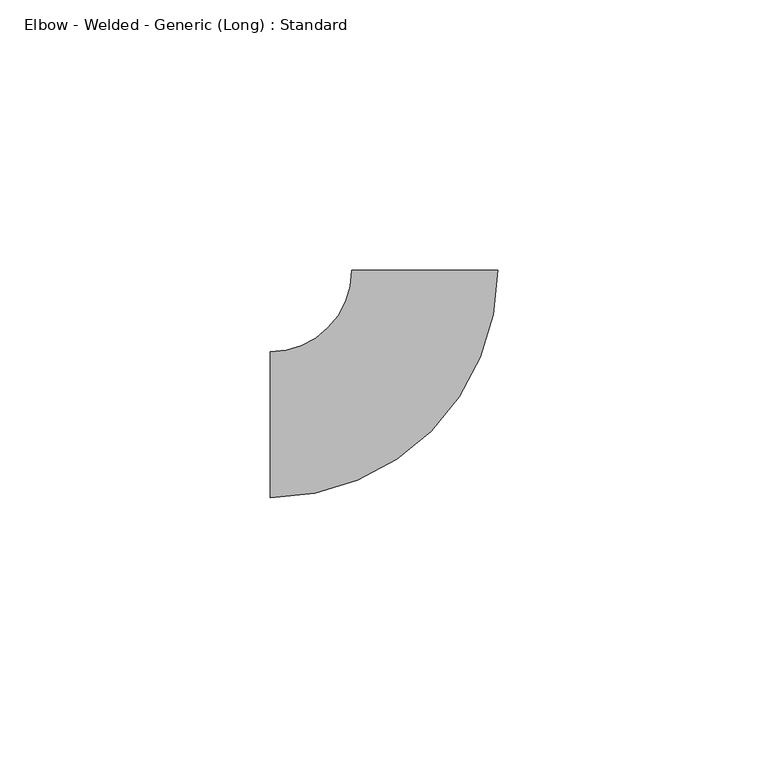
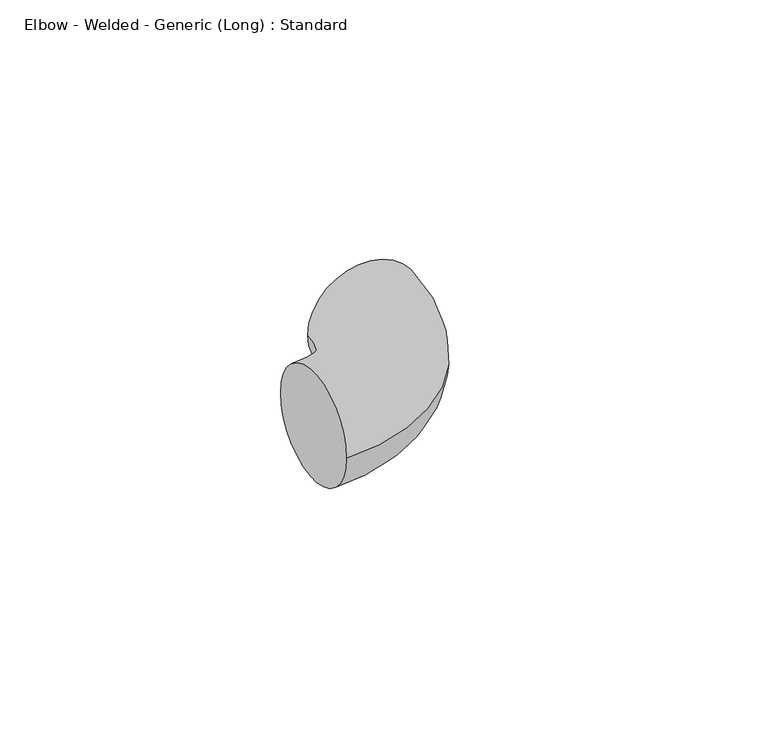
"""IFC4 building model written with IfcOpenShell, lengths in millimetres: pipe fitting geometry, Elbow - Welded - Generic (Long) : Standard."""

from ifc_helpers import new_model, si_unit, point, frame, origin, place, context, project, spatial, circle_curve, ellipse_curve, trimmed, source, transform, mapped, element, save
from ifc_brep_helpers import plane_surface, revolved_surface, advanced_brep


def elbow_welded_generic_long_standard_6d6d4de9(model_context):
    return source(origin(), model_context, "Body", "AdvancedBrep", [
        advanced_brep(
        [(-28.575, -13.49375, 0.0), (-28.575, 13.49375, 0.0), (13.523492, 28.5609362, 0.0), (-13.4639933, 28.5890328, 0.0)],
        [
            (0, 1, circle_curve(frame((-28.575, 0.0, 0.0), z_axis=(-1.0, 0.0, 0.0), x_axis=(0.0, 1.0, 0.0)), 13.49375)),
            (1, 0, circle_curve(frame((-28.575, 0.0, 0.0), z_axis=(-1.0, 0.0, 0.0), x_axis=(0.0, 1.0, 0.0)), 13.49375)),
            (2, 3, circle_curve(frame((0.0297494, 28.5749845, 0.0), z_axis=(0.001041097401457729, 0.9999994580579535, 0.0), x_axis=(-0.9999994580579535, 0.001041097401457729, 0.0)), 13.49375)),
            (3, 2, circle_curve(frame((0.0297494, 28.5749845, 0.0), z_axis=(0.001041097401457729, 0.9999994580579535, 0.0), x_axis=(-0.9999994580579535, 0.001041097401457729, 0.0)), 13.49375)),
            (3, 1, circle_curve(frame((-28.575, 28.6047649, 0.0), z_axis=(0.0, 0.0, -1.0), x_axis=(0.0, -1.0, 0.0)), 15.1110149)),
            (0, 2, circle_curve(frame((-28.575, 28.6047649, 0.0), z_axis=(0.0, 0.0, 1.0), x_axis=(0.0, -1.0, 0.0)), 42.0985149)),
        ],
        [
            plane_surface(frame((-28.575, 0.0, 0.0), z_axis=(-1.0, 0.0, 0.0), x_axis=(0.0, 0.0, 1.0))),
            plane_surface(frame((0.0297494, 28.5749845, 0.0), z_axis=(0.0010410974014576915, 0.9999994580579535, 0.0), x_axis=(0.0, 0.0, 1.0))),
            revolved_surface(trimmed(ellipse_curve(frame((-28.575, 0.0, 0.0), z_axis=(-1.0, 0.0, 0.0), x_axis=(0.0, 1.0, 0.0)), 13.49375, 13.49375), [point((-28.575, -13.49375, 0.0))], [point((-28.575, 13.49375, 0.0))], True, "CARTESIAN"), (-28.575, 28.6047649, 0.0), (0.0, 0.0, 1.0)),
            revolved_surface(trimmed(ellipse_curve(frame((-28.575, 0.0, 0.0), z_axis=(-1.0, 0.0, 0.0), x_axis=(0.0, 1.0, 0.0)), 13.49375, 13.49375), [point((-28.575, 13.49375, 0.0))], [point((-28.575, -13.49375, 0.0))], True, "CARTESIAN"), (-28.575, 28.6047649, 0.0), (0.0, 0.0, 1.0)),
        ],
        [
            (0, [[1, 2]]),
            (1, [[3, 4]]),
            (2, [[5, -1, 6, -4]]),
            (3, [[-6, -2, -5, -3]]),
        ],
    ),
    ])


if __name__ == "__main__":
    model = new_model("IFC4")
    model_context = context("Model", 3, world=origin())
    ifc_project = project(units=[si_unit("LENGTHUNIT", "METRE", prefix="MILLI")], contexts=[model_context])
    site = spatial("IfcSite", under=ifc_project)
    building = spatial("IfcBuilding", under=site)
    placement = place(None, origin())
    elbow_welded_generic_long_standard_shape = elbow_welded_generic_long_standard_6d6d4de9(model_context)
    element("IfcPipeFitting", 1, ObjectType="Elbow - Welded - Generic (Long) : Standard", at=placement, inside=building, context=model_context, shape_type="MappedRepresentation", body=[
        mapped(elbow_welded_generic_long_standard_shape, transform((0.0, 0.0, 0.0), x_axis=(1.0, 0.0, 0.0), y_axis=(0.0, 1.0, 0.0), z_axis=(0.0, 0.0, 1.0))),
    ])
    save(model, "model.ifc")
